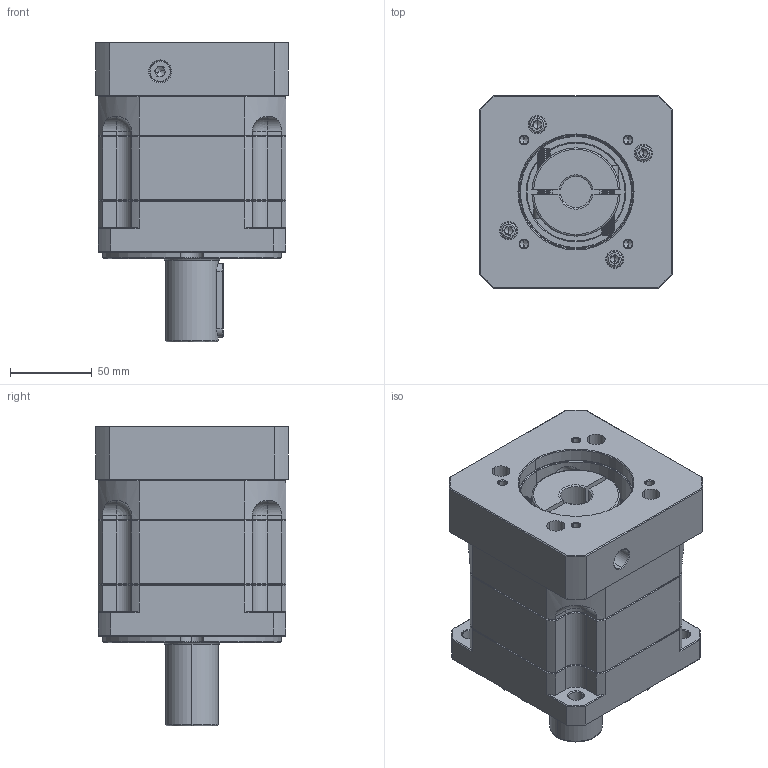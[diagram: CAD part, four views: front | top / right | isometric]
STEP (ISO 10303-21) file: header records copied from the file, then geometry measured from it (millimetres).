
FILE_DESCRIPTION (( 'STEP AP214' ), '1' );
FILE_NAME ('ZB115A-D32-L1-P2-19-70-90-M6.step', '2023-08-26T06:27:35', ( '' ), ( '' ), 'SwSTEP 2.0', 'SolidWorks 2016', '' );
FILE_SCHEMA (( 'AUTOMOTIVE_DESIGN' ));
Length unit declared in the file: millimetre
Products named in the file (1): ZB115A-D32-L1-P2-19-70-90-M6
Bounding box: 118 x 118 x 183.5 mm (x, y, z)
Volume: 1536277.5 mm3; surface area: 161885.1 mm2
Topology: 6 solids, 6 shells, 2249 faces, 5969 edges, 3820 vertices
Faces by surface type: plane 1136, bspline 399, cone 369, cylinder 313, torus 28, sphere 4
Entity records: 113572 total; most frequent: CARTESIAN_POINT 35433, ORIENTED_EDGE 11870, DIRECTION 9753, EDGE_CURVE 5935, LINE 3839, VECTOR 3839, VERTEX_POINT 3820, AXIS2_PLACEMENT_3D 2957
